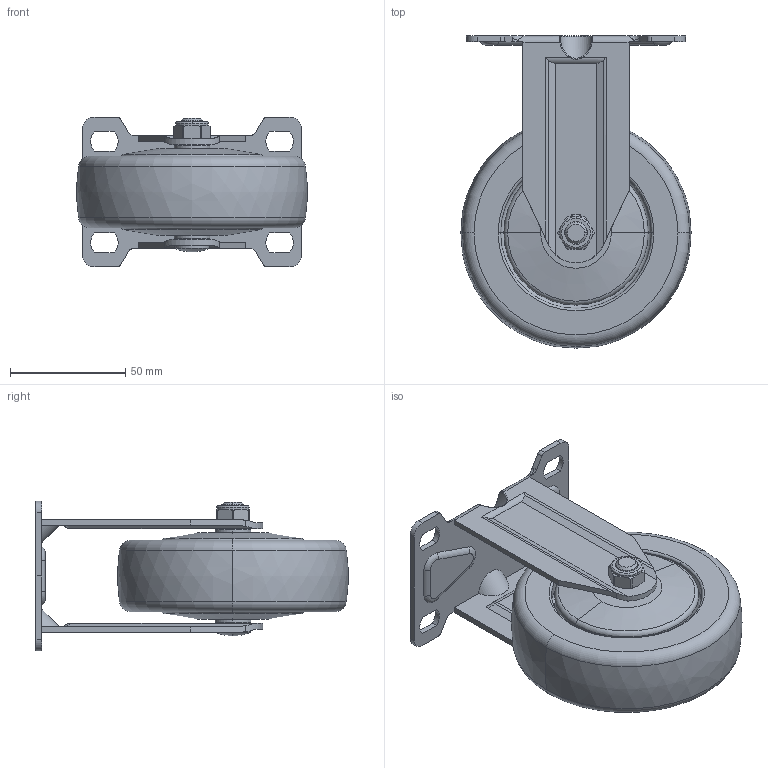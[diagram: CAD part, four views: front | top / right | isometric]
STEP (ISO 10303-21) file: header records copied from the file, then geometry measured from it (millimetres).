
FILE_DESCRIPTION((''),'2;1');
FILE_NAME('57204-574-77_ASM','2021-01-05T',('lenovo'),(''),'PRO/ENGINEER BY PARAMETRIC TECHNOLOGY CORPORATION, 2010280','PRO/ENGINEER BY PARAMETRIC TECHNOLOGY CORPORATION, 2010280','');
FILE_SCHEMA(('CONFIG_CONTROL_DESIGN'));
Length unit declared in the file: millimetre
Products named in the file (5): 5724-301; 574-77; 5710-020; 5710-031; 57204-574-77_ASM
Assembly tree (4 placements, depth 2):
  57204-574-77_ASM
    5724-301
    574-77
    5710-020
    5710-031
Bounding box: 99.82 x 135.31 x 65 mm (x, y, z)
Volume: 282706.1 mm3; surface area: 59425.9 mm2
Topology: 4 solids, 4 shells, 247 faces, 616 edges, 385 vertices
Faces by surface type: cylinder 80, plane 79, torus 34, bspline 26, cone 22, sphere 6
Entity records: 9338 total; most frequent: CARTESIAN_POINT 3430, ORIENTED_EDGE 1228, DIRECTION 1210, EDGE_CURVE 614, AXIS2_PLACEMENT_3D 476, VERTEX_POINT 385, EDGE_LOOP 271, VECTOR 258
